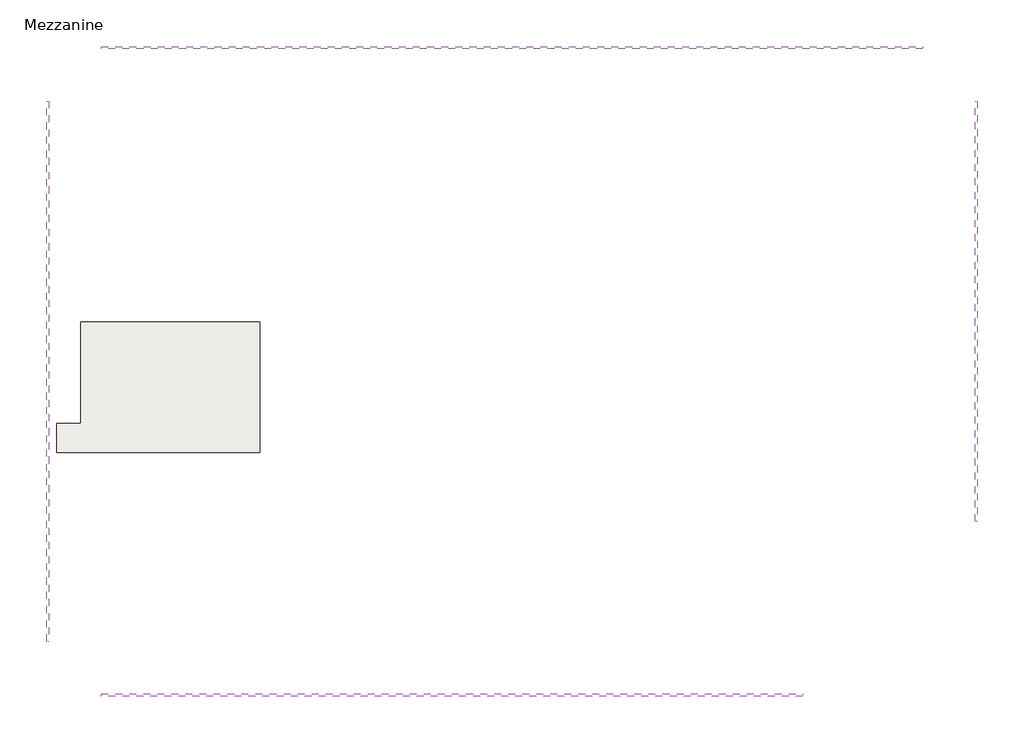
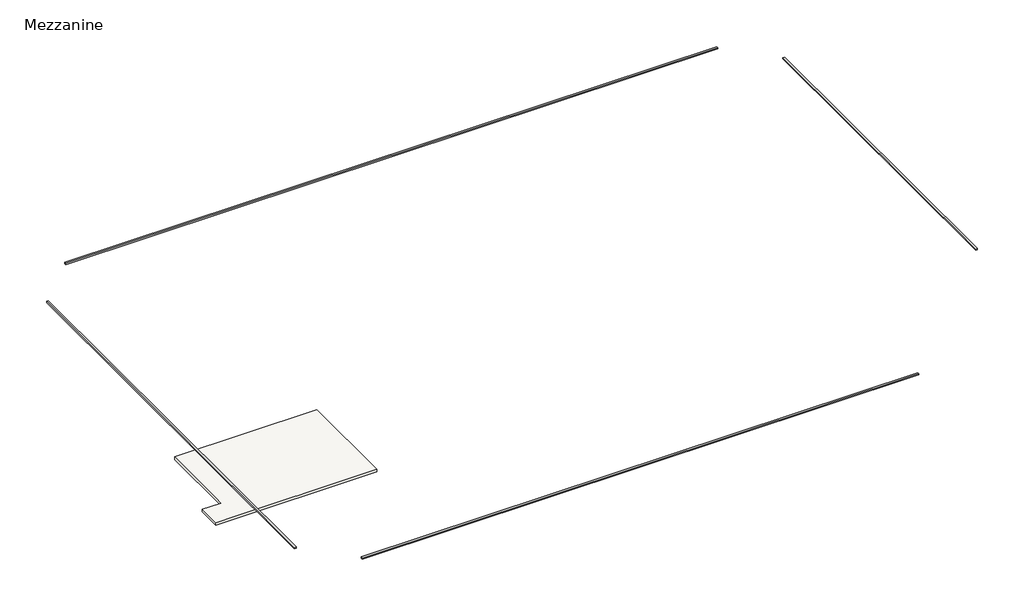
# One storey: 4 proxies, 1 slab.
"""IFC4 building model written with IfcOpenShell, lengths in millimetres."""

from ifc_helpers import new_model, si_unit, frame, origin, place, context, project, spatial, polyline, outline, extrude, element, save

model = new_model("IFC4")

# Units and contexts
model_context = context("Model", 3, world=origin())
ifc_project = project(units=[si_unit("LENGTHUNIT", "METRE", prefix="MILLI")], contexts=[model_context])

# Site, building, storey
site = spatial("IfcSite", under=ifc_project)
building = spatial("IfcBuilding", under=site)
storey = spatial("IfcBuildingStorey", under=building, Name="Mezzanine", Elevation=3500.0)

# Proxies
placement = place(None, origin())
element("IfcBuildingElementProxy", 1, Name="Reveals", at=placement, inside=storey, context=model_context, shape_type="SweptSolid", body=[
    extrude(outline(polyline([(11070.0272279, -14331.9313057), (11070.0272279, -14434.4313057), (-20031.4727721, -14434.4313057), (-20031.4727721, -14331.9313057), (11070.0272279, -14331.9313057)])), frame((0.0, 0.0, 7200.0), z_axis=(0.0, 0.0, 1.0), x_axis=(1.0, 0.0, 0.0)), (0.0, 0.0, 1.0), 75.0),
])
element("IfcBuildingElementProxy", 2, Name="Reveals", at=placement, inside=storey, context=model_context, shape_type="SweptSolid", body=[
    extrude(outline(polyline([(-22344.4727721, -12018.7313057), (-22446.9727721, -12018.7313057), (-22446.9727721, 11955.0686943), (-22344.4727721, 11955.0686943), (-22344.4727721, -12018.7313057)])), frame((0.0, 0.0, 7200.0), z_axis=(0.0, 0.0, 1.0), x_axis=(1.0, 0.0, 0.0)), (0.0, 0.0, 1.0), 75.0),
])
element("IfcBuildingElementProxy", 3, Name="Reveals", at=placement, inside=storey, context=model_context, shape_type="SweptSolid", body=[
    extrude(outline(polyline([(-20031.4727721, 14268.0686943), (-20031.4727721, 14370.5686943), (16392.5272279, 14370.5686943), (16392.5272279, 14268.0686943), (-20031.4727721, 14268.0686943)])), frame((0.0, 0.0, 7200.0), z_axis=(0.0, 0.0, 1.0), x_axis=(1.0, 0.0, 0.0)), (0.0, 0.0, 1.0), 75.0),
])
element("IfcBuildingElementProxy", 4, Name="Reveals", at=placement, inside=storey, context=model_context, shape_type="SweptSolid", body=[
    extrude(outline(polyline([(18705.5272279, 11955.0686943), (18808.0272279, 11955.0686943), (18808.0272279, -6696.4313057), (18705.5272279, -6696.4313057), (18705.5272279, 11955.0686943)])), frame((0.0, 0.0, 7200.0), z_axis=(0.0, 0.0, 1.0), x_axis=(1.0, 0.0, 0.0)), (0.0, 0.0, 1.0), 75.0),
])

# Slab
element("IfcSlab", 5, ObjectType="Generic 150mm", at=placement, inside=storey, context=model_context, shape_type="SweptSolid", body=[
    extrude(outline(polyline([(-21990.4727721, -3637.6813057), (-21990.4727721, -2337.6813057), (-20940.4727721, -2337.6813057), (-20940.4727721, 2162.3186943), (-12988.7227721, 2162.3186943), (-12988.7227721, -3637.6813057), (-21990.4727721, -3637.6813057)])), frame((0.0, 0.0, 3350.0), z_axis=(0.0, 0.0, 1.0), x_axis=(1.0, 0.0, 0.0)), (0.0, 0.0, 1.0), 150.0),
])

save(model, "model.ifc")
